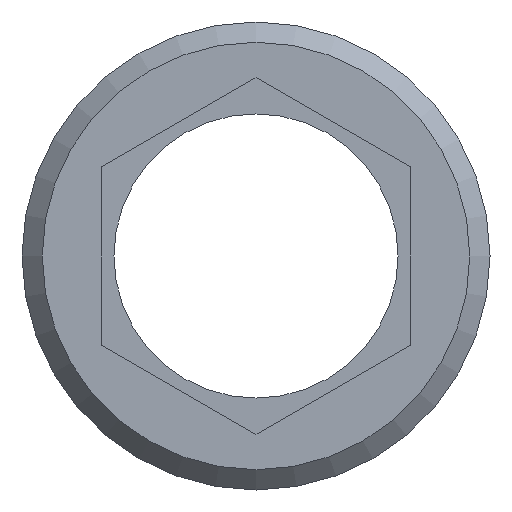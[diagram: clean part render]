
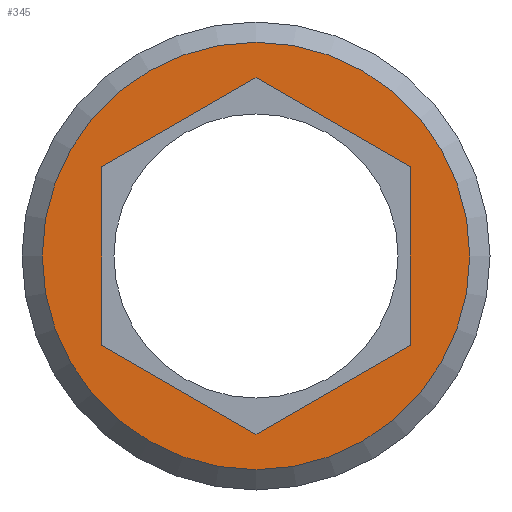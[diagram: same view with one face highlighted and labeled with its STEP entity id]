
A CAD part, front view. The second image highlights one B-rep face of the part: STEP entity #345.
In plain terms, the highlighted planar face has unit normal (0, -1, 0).
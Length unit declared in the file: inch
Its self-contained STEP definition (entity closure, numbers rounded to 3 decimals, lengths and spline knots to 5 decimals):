
#19=FACE_BOUND('',#87,.T.);
#39=CIRCLE('',#390,0.173);
#65=FACE_OUTER_BOUND('',#86,.T.);
#86=EDGE_LOOP('',(#285));
#87=EDGE_LOOP('',(#286,#287,#288,#289,#290,#291));
#95=LINE('',#524,#119);
#99=LINE('',#532,#123);
#102=LINE('',#538,#126);
#105=LINE('',#544,#129);
#108=LINE('',#550,#132);
#111=LINE('',#555,#135);
#119=VECTOR('',#412,0.3937);
#123=VECTOR('',#418,0.3937);
#126=VECTOR('',#423,0.3937);
#129=VECTOR('',#428,0.3937);
#132=VECTOR('',#433,0.3937);
#135=VECTOR('',#438,0.3937);
#143=VERTEX_POINT('',#522);
#144=VERTEX_POINT('',#523);
#147=VERTEX_POINT('',#531);
#149=VERTEX_POINT('',#537);
#151=VERTEX_POINT('',#543);
#153=VERTEX_POINT('',#549);
#166=VERTEX_POINT('',#588);
#177=EDGE_CURVE('',#143,#144,#95,.T.);
#181=EDGE_CURVE('',#147,#143,#99,.T.);
#184=EDGE_CURVE('',#149,#147,#102,.T.);
#187=EDGE_CURVE('',#151,#149,#105,.T.);
#190=EDGE_CURVE('',#153,#151,#108,.T.);
#193=EDGE_CURVE('',#144,#153,#111,.T.);
#209=EDGE_CURVE('',#166,#166,#39,.T.);
#285=ORIENTED_EDGE('',*,*,#209,.F.);
#286=ORIENTED_EDGE('',*,*,#190,.T.);
#287=ORIENTED_EDGE('',*,*,#187,.T.);
#288=ORIENTED_EDGE('',*,*,#184,.T.);
#289=ORIENTED_EDGE('',*,*,#181,.T.);
#290=ORIENTED_EDGE('',*,*,#177,.T.);
#291=ORIENTED_EDGE('',*,*,#193,.T.);
#329=PLANE('',#396);
#345=ADVANCED_FACE('',(#65,#19),#329,.T.);
#390=AXIS2_PLACEMENT_3D('',#589,#479,#480);
#396=AXIS2_PLACEMENT_3D('',#601,#493,#494);
#412=DIRECTION('',(-0.866,0.,-0.5));
#418=DIRECTION('',(0.,0.,-1.));
#423=DIRECTION('',(0.866,0.,-0.5));
#428=DIRECTION('',(0.866,0.,0.5));
#433=DIRECTION('',(0.,0.,1.));
#438=DIRECTION('',(-0.866,0.,0.5));
#479=DIRECTION('center_axis',(0.,1.,0.));
#480=DIRECTION('ref_axis',(0.,0.,1.));
#493=DIRECTION('center_axis',(0.,-1.,0.));
#494=DIRECTION('ref_axis',(0.,0.,-1.));
#522=CARTESIAN_POINT('',(0.125,0.,-0.07217));
#523=CARTESIAN_POINT('',(0.,0.,-0.14434));
#524=CARTESIAN_POINT('',(0.06669,0.,-0.10584));
#531=CARTESIAN_POINT('',(0.125,0.,0.07217));
#532=CARTESIAN_POINT('',(0.125,0.,-0.02642));
#537=CARTESIAN_POINT('',(0.,0.,0.14434));
#538=CARTESIAN_POINT('',(0.05831,0.,0.11067));
#543=CARTESIAN_POINT('',(-0.125,0.,0.07217));
#544=CARTESIAN_POINT('',(-0.12081,0.,0.07459));
#549=CARTESIAN_POINT('',(-0.125,0.,-0.07217));
#550=CARTESIAN_POINT('',(-0.125,0.,-0.09858));
#555=CARTESIAN_POINT('',(-0.00419,0.,-0.14192));
#588=CARTESIAN_POINT('',(0.,0.,-0.173));
#589=CARTESIAN_POINT('Origin',(0.,0.,0.));
#601=CARTESIAN_POINT('Origin',(0.,0.,-0.125));
